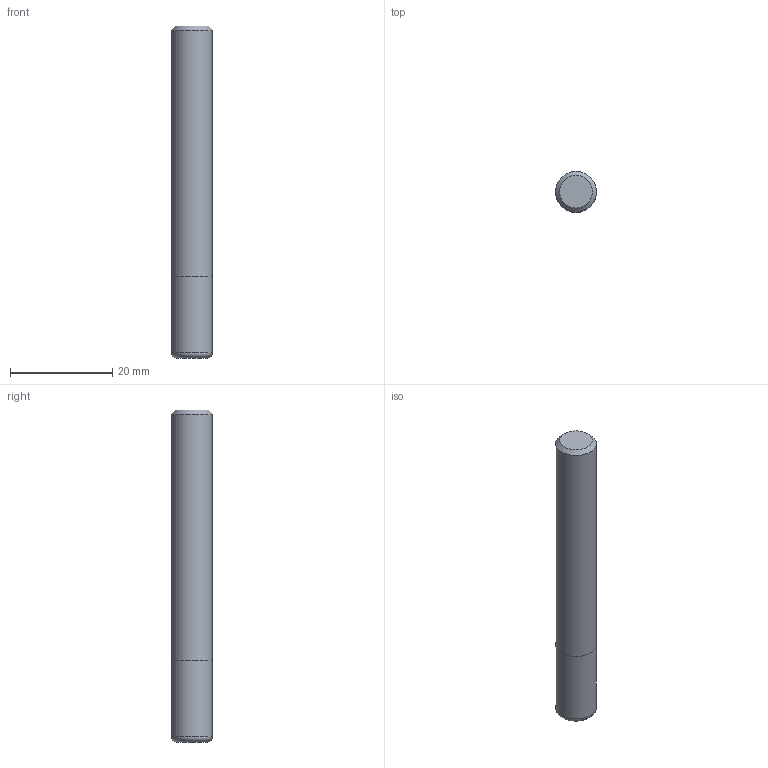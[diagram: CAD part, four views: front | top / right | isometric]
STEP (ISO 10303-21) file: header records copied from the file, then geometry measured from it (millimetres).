
FILE_DESCRIPTION((''),'2;1');
FILE_NAME('C:\Users\nsx150\AppData\Local\Temp\Mastercam 2021\Y59DX2IYLB\TEMP.step','2021-04-08T17:16:39',(''),(''),'STEP Write','Mastercam 2021 ... CNC Software, Inc.','');
FILE_SCHEMA(('AUTOMOTIVE_DESIGN'));
Length unit declared in the file: millimetre
Products named in the file (1): None
Bounding box: 8 x 8 x 65 mm (x, y, z)
Volume: 3254.7 mm3; surface area: 1810.8 mm2
Topology: 2 solids, 2 shells, 8 faces, 10 edges, 6 vertices
Faces by surface type: plane 4, cylinder 2, torus 1, cone 1
Full cylindrical faces by diameter (mm): 8 x2
Entity records: 190 total; most frequent: DIRECTION 32, CARTESIAN_POINT 22, AXIS2_PLACEMENT_3D 16, ORIENTED_EDGE 12, EDGE_LOOP 12, STYLED_ITEM 11, ADVANCED_FACE 8, FACE_BOUND 7
